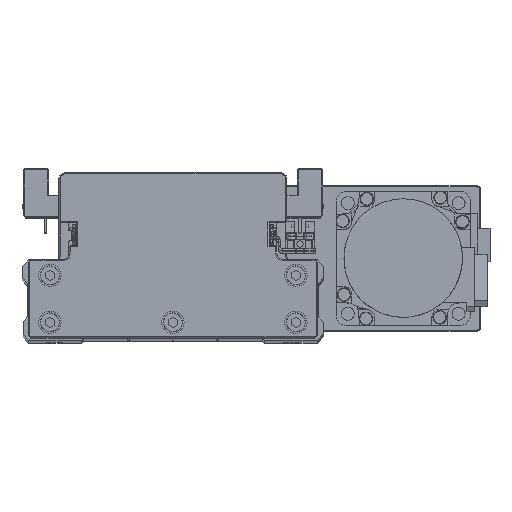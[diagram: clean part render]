
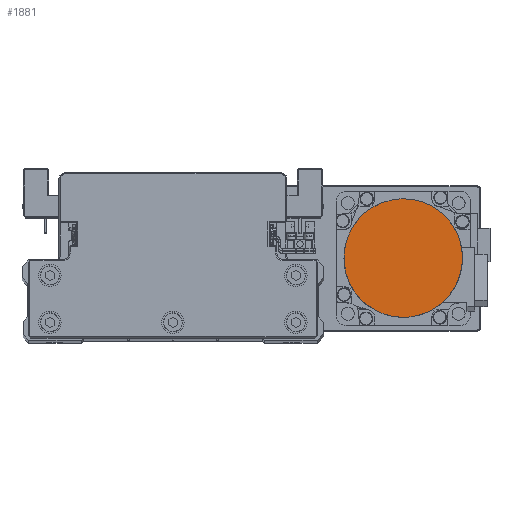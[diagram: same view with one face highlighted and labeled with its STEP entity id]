
A CAD part, top view. The second image highlights one B-rep face of the part: STEP entity #1881.
In plain terms, the highlighted planar face has unit normal (0, 0, 1) as drawn and (0, 0, -1) by its records, which use the part's own axes.
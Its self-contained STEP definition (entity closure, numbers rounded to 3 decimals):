
#847 = DIRECTION ( 'NONE',  ( 1., 0., 0. ) ) ;
#1350 = CARTESIAN_POINT ( 'NONE',  ( 23.819, 11.744, -109.7 ) ) ;
#1546 = CARTESIAN_POINT ( 'NONE',  ( -3.469, 26.329, -109.7 ) ) ;
#1746 = CARTESIAN_POINT ( 'NONE',  ( -26.329, 3.469, -109.7 ) ) ;
#1801 = CARTESIAN_POINT ( 'NONE',  ( -19.965, -17.512, -109.7 ) ) ;
#1881 = ADVANCED_FACE ( 'NONE', ( #32083 ), #3921, .F. ) ;
#2005 = CARTESIAN_POINT ( 'NONE',  ( 11.744, -23.819, -109.7 ) ) ;
#3921 = PLANE ( 'NONE',  #33221 ) ;
#4405 = CARTESIAN_POINT ( 'NONE',  ( 26.329, 3.469, -109.7 ) ) ;
#4609 = CARTESIAN_POINT ( 'NONE',  ( 3.469, 26.329, -109.7 ) ) ;
#4818 = CARTESIAN_POINT ( 'NONE',  ( -23.819, 11.744, -109.7 ) ) ;
#4862 = CARTESIAN_POINT ( 'NONE',  ( -23.819, -11.744, -109.7 ) ) ;
#5065 = CARTESIAN_POINT ( 'NONE',  ( 3.469, -26.329, -109.7 ) ) ;
#5280 = CARTESIAN_POINT ( 'NONE',  ( 26.329, -3.469, -109.7 ) ) ;
#7702 = CARTESIAN_POINT ( 'NONE',  ( 11.744, 23.819, -109.7 ) ) ;
#7906 = CARTESIAN_POINT ( 'NONE',  ( -19.965, 17.512, -109.7 ) ) ;
#7955 = CARTESIAN_POINT ( 'NONE',  ( -26.329, -3.469, -109.7 ) ) ;
#8152 = CARTESIAN_POINT ( 'NONE',  ( -3.469, -26.329, -109.7 ) ) ;
#8357 = CARTESIAN_POINT ( 'NONE',  ( 23.819, -11.744, -109.7 ) ) ;
#10790 = CARTESIAN_POINT ( 'NONE',  ( 17.512, 19.965, -109.7 ) ) ;
#10937 = EDGE_CURVE ( 'NONE', #28985, #31759, #10991, .T. ) ;
#10991 = B_SPLINE_CURVE_WITH_KNOTS ( 'NONE', 3,
 ( #20035, #32568, #4405, #16954, #29501, #1350, #13881, #26410, #38936, #10790, #23321, #35853, #7702, #20244, #32784, #4609, #17157, #29710, #1546, #14075, #26613, #39135, #10997, #23531, #36068, #7906, #20444, #32986, #4818, #17353, #29903, #1746, #14278, #26819 ),
 .UNSPECIFIED., .F., .F.,
 ( 4, 2, 2, 2, 2, 2, 2, 2, 2, 2, 2, 2, 2, 2, 2, 2, 4 ),
 ( 0., 0.062, 0.125, 0.187, 0.25, 0.312, 0.375, 0.437, 0.5, 0.562, 0.625, 0.687, 0.75, 0.813, 0.875, 0.938, 1. ),
 .UNSPECIFIED. ) ;
#10997 = CARTESIAN_POINT ( 'NONE',  ( -13.28, 22.998, -109.7 ) ) ;
#11255 = CARTESIAN_POINT ( 'NONE',  ( -11.744, -23.819, -109.7 ) ) ;
#11448 = CARTESIAN_POINT ( 'NONE',  ( 19.965, -17.512, -109.7 ) ) ;
#13881 = CARTESIAN_POINT ( 'NONE',  ( 22.998, 13.28, -109.7 ) ) ;
#14075 = CARTESIAN_POINT ( 'NONE',  ( -6.871, 25.652, -109.7 ) ) ;
#14278 = CARTESIAN_POINT ( 'NONE',  ( -26.5, 1.734, -109.7 ) ) ;
#14328 = CARTESIAN_POINT ( 'NONE',  ( -17.512, -19.965, -109.7 ) ) ;
#14530 = CARTESIAN_POINT ( 'NONE',  ( 13.28, -22.998, -109.7 ) ) ;
#14947 = CARTESIAN_POINT ( 'NONE',  ( -26.5, 0., -109.7 ) ) ;
#16466 = CARTESIAN_POINT ( 'NONE',  ( 0., 0., -109.7 ) ) ;
#16954 = CARTESIAN_POINT ( 'NONE',  ( 25.652, 6.871, -109.7 ) ) ;
#17157 = CARTESIAN_POINT ( 'NONE',  ( 1.734, 26.5, -109.7 ) ) ;
#17353 = CARTESIAN_POINT ( 'NONE',  ( -25.147, 8.539, -109.7 ) ) ;
#17399 = CARTESIAN_POINT ( 'NONE',  ( -22.998, -13.28, -109.7 ) ) ;
#17612 = CARTESIAN_POINT ( 'NONE',  ( 6.871, -25.652, -109.7 ) ) ;
#17814 = CARTESIAN_POINT ( 'NONE',  ( 26.5, -1.734, -109.7 ) ) ;
#19087 = B_SPLINE_CURVE_WITH_KNOTS ( 'NONE', 3,
 ( #23580, #36116, #7955, #20494, #33031, #4862, #17399, #29950, #1801, #14328, #26873, #39397, #11255, #23784, #36315, #8152, #20693, #33226, #5065, #17612, #30166, #2005, #14530, #27077, #39597, #11448, #23984, #36514, #8357, #20905, #33438, #5280, #17814, #30366 ),
 .UNSPECIFIED., .F., .F.,
 ( 4, 2, 2, 2, 2, 2, 2, 2, 2, 2, 2, 2, 2, 2, 2, 2, 4 ),
 ( 0., 0.063, 0.125, 0.188, 0.25, 0.312, 0.375, 0.437, 0.5, 0.562, 0.625, 0.687, 0.75, 0.813, 0.875, 0.938, 1. ),
 .UNSPECIFIED. ) ;
#20035 = CARTESIAN_POINT ( 'NONE',  ( 26.5, 0., -109.7 ) ) ;
#20244 = CARTESIAN_POINT ( 'NONE',  ( 8.539, 25.147, -109.7 ) ) ;
#20444 = CARTESIAN_POINT ( 'NONE',  ( -21.07, 16.165, -109.7 ) ) ;
#20494 = CARTESIAN_POINT ( 'NONE',  ( -25.652, -6.871, -109.7 ) ) ;
#20693 = CARTESIAN_POINT ( 'NONE',  ( -1.734, -26.5, -109.7 ) ) ;
#20905 = CARTESIAN_POINT ( 'NONE',  ( 25.147, -8.539, -109.7 ) ) ;
#23321 = CARTESIAN_POINT ( 'NONE',  ( 16.165, 21.07, -109.7 ) ) ;
#23531 = CARTESIAN_POINT ( 'NONE',  ( -16.165, 21.07, -109.7 ) ) ;
#23580 = CARTESIAN_POINT ( 'NONE',  ( -26.5, 0., -109.7 ) ) ;
#23784 = CARTESIAN_POINT ( 'NONE',  ( -8.539, -25.147, -109.7 ) ) ;
#23984 = CARTESIAN_POINT ( 'NONE',  ( 21.07, -16.165, -109.7 ) ) ;
#26410 = CARTESIAN_POINT ( 'NONE',  ( 21.07, 16.165, -109.7 ) ) ;
#26613 = CARTESIAN_POINT ( 'NONE',  ( -8.539, 25.147, -109.7 ) ) ;
#26819 = CARTESIAN_POINT ( 'NONE',  ( -26.5, 0., -109.7 ) ) ;
#26873 = CARTESIAN_POINT ( 'NONE',  ( -16.165, -21.07, -109.7 ) ) ;
#27077 = CARTESIAN_POINT ( 'NONE',  ( 16.165, -21.07, -109.7 ) ) ;
#28616 = ORIENTED_EDGE ( 'NONE', *, *, #10937, .F. ) ;
#28969 = ORIENTED_EDGE ( 'NONE', *, *, #30404, .F. ) ;
#28985 = VERTEX_POINT ( 'NONE', #36552 ) ;
#29005 = DIRECTION ( 'NONE',  ( 0., 0., 1. ) ) ;
#29501 = CARTESIAN_POINT ( 'NONE',  ( 25.147, 8.539, -109.7 ) ) ;
#29710 = CARTESIAN_POINT ( 'NONE',  ( -1.734, 26.5, -109.7 ) ) ;
#29903 = CARTESIAN_POINT ( 'NONE',  ( -25.652, 6.871, -109.7 ) ) ;
#29950 = CARTESIAN_POINT ( 'NONE',  ( -21.07, -16.165, -109.7 ) ) ;
#30166 = CARTESIAN_POINT ( 'NONE',  ( 8.539, -25.147, -109.7 ) ) ;
#30366 = CARTESIAN_POINT ( 'NONE',  ( 26.5, 0., -109.7 ) ) ;
#30404 = EDGE_CURVE ( 'NONE', #31759, #28985, #19087, .T. ) ;
#30645 = EDGE_LOOP ( 'NONE', ( #28616, #28969 ) ) ;
#31759 = VERTEX_POINT ( 'NONE', #14947 ) ;
#32083 = FACE_OUTER_BOUND ( 'NONE', #30645, .T. ) ;
#32568 = CARTESIAN_POINT ( 'NONE',  ( 26.5, 1.734, -109.7 ) ) ;
#32784 = CARTESIAN_POINT ( 'NONE',  ( 6.871, 25.652, -109.7 ) ) ;
#32986 = CARTESIAN_POINT ( 'NONE',  ( -22.998, 13.28, -109.7 ) ) ;
#33031 = CARTESIAN_POINT ( 'NONE',  ( -25.147, -8.539, -109.7 ) ) ;
#33221 = AXIS2_PLACEMENT_3D ( 'NONE', #16466, #29005, #847 ) ;
#33226 = CARTESIAN_POINT ( 'NONE',  ( 1.734, -26.5, -109.7 ) ) ;
#33438 = CARTESIAN_POINT ( 'NONE',  ( 25.652, -6.871, -109.7 ) ) ;
#35853 = CARTESIAN_POINT ( 'NONE',  ( 13.28, 22.998, -109.7 ) ) ;
#36068 = CARTESIAN_POINT ( 'NONE',  ( -17.512, 19.965, -109.7 ) ) ;
#36116 = CARTESIAN_POINT ( 'NONE',  ( -26.5, -1.734, -109.7 ) ) ;
#36315 = CARTESIAN_POINT ( 'NONE',  ( -6.871, -25.652, -109.7 ) ) ;
#36514 = CARTESIAN_POINT ( 'NONE',  ( 22.998, -13.28, -109.7 ) ) ;
#36552 = CARTESIAN_POINT ( 'NONE',  ( 26.5, 0., -109.7 ) ) ;
#38936 = CARTESIAN_POINT ( 'NONE',  ( 19.965, 17.512, -109.7 ) ) ;
#39135 = CARTESIAN_POINT ( 'NONE',  ( -11.744, 23.819, -109.7 ) ) ;
#39397 = CARTESIAN_POINT ( 'NONE',  ( -13.28, -22.998, -109.7 ) ) ;
#39597 = CARTESIAN_POINT ( 'NONE',  ( 17.512, -19.965, -109.7 ) ) ;
